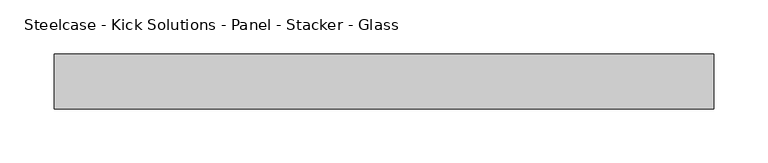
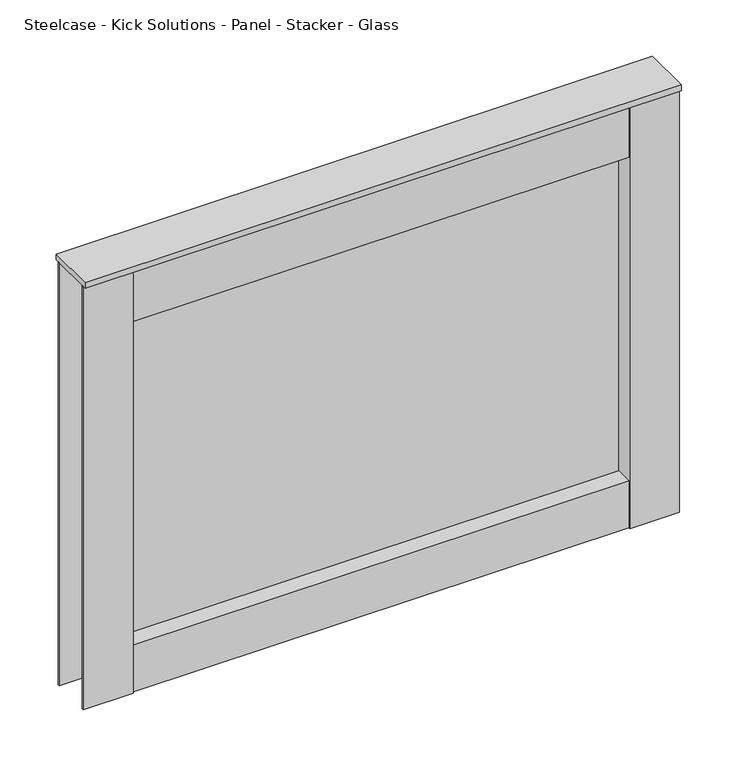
"""IFC4 building model written with IfcOpenShell, lengths in millimetres: furniture geometry, Steelcase - Kick Solutions - Panel - Stacker - Glass : 18H x 24W."""

import ifcopenshell
import ifcopenshell.guid

model = None  # the IFC model being written
_history = None  # IfcOwnerHistory: only IFC2X3 demands one
_inside = {}  # id of a spatial element -> (the spatial element, [elements in it])
_under = {}  # id of a project, library or spatial element -> (it, [spatial elements below it])
_declared = {}  # id of a project -> (the project, [libraries it declares])
_typed = {}  # id of a type object -> (the type object, [elements of that type])
_made_of = {}  # id of a material, layer set ... -> (it, [elements and type objects made of it])


def new_model(schema):
    """Start an empty IFC model of exactly this schema.

    Asked for "IFC4X3", IfcOpenShell would pick the latest addendum, in which some entities
    have other attributes; the version numbers below select the first issue.
    IFC2X3 requires an IfcOwnerHistory on every rooted entity: one is made here for all.
    """
    global model, _history
    if schema == "IFC4X3":
        model = ifcopenshell.file(schema_version=(4, 3, 0, 0))
    else:
        model = ifcopenshell.file(schema=schema)
    _inside.clear()
    _under.clear()
    _declared.clear()
    _typed.clear()
    _made_of.clear()
    _history = None
    if model.schema == "IFC2X3":
        org = make("IfcOrganization", Name="unknown")
        user = make(
            "IfcPersonAndOrganization",
            ThePerson=make("IfcPerson", FamilyName="unknown"),
            TheOrganization=org,
        )
        app = make(
            "IfcApplication",
            ApplicationDeveloper=org,
            Version="unknown",
            ApplicationFullName="unknown",
            ApplicationIdentifier="unknown",
        )
        _history = make(
            "IfcOwnerHistory",
            OwningUser=user,
            OwningApplication=app,
            ChangeAction="ADDED",
            CreationDate=0,
        )
    return model


def make(cls, **values):
    """One entity of the class cls with the attributes given. An attribute that is None is left unset."""
    return model.create_entity(
        cls, **{name: value for name, value in values.items() if value is not None}
    )


def rooted(cls, **values):
    """An entity with a GlobalId (a new one), such as an element, a storey or a relation."""
    return make(cls, GlobalId=ifcopenshell.guid.new(), OwnerHistory=_history, **values)


def si_unit(unit_type, name, prefix=None):
    """IfcSIUnit, for example si_unit("LENGTHUNIT", "METRE", prefix="MILLI")."""
    return make("IfcSIUnit", UnitType=unit_type, Prefix=prefix, Name=name)


def assignment(units):
    """IfcUnitAssignment: the units of a project."""
    return None if units is None else make("IfcUnitAssignment", Units=units)


def point(xyz):
    """IfcCartesianPoint."""
    return None if xyz is None else make("IfcCartesianPoint", Coordinates=xyz)


def direction(xyz):
    """IfcDirection."""
    return None if xyz is None else make("IfcDirection", DirectionRatios=xyz)


def frame(location, z_axis=None, x_axis=None):
    """IfcAxis2Placement3D, a coordinate frame: its origin and axes. An axis left out is left unset."""
    return make(
        "IfcAxis2Placement3D",
        Location=point(location),
        Axis=direction(z_axis),
        RefDirection=direction(x_axis),
    )


def origin():
    """The frame at (0, 0, 0) with its axes left unset."""
    return frame((0.0, 0.0, 0.0))


def place(relative_to, where):
    """IfcLocalPlacement: puts the frame where relative to a parent placement (None: the world)."""
    return make(
        "IfcLocalPlacement", PlacementRelTo=relative_to, RelativePlacement=where
    )


def context(
    kind, dimensions, precision=None, world=None, true_north=None, identifier=None
):
    """IfcGeometricRepresentationContext, for example the 3D "Model" context."""
    return make(
        "IfcGeometricRepresentationContext",
        ContextIdentifier=identifier,
        ContextType=kind,
        CoordinateSpaceDimension=dimensions,
        Precision=precision,
        WorldCoordinateSystem=world,
        TrueNorth=true_north,
    )


def project(units=None, contexts=None):
    """IfcProject with its units and contexts."""
    return rooted(
        "IfcProject",
        Name="project",
        RepresentationContexts=contexts,
        UnitsInContext=assignment(units),
    )


def spatial(cls, under=None, at=None, **own):
    """A site, building, storey or space (cls), placed at a placement, below another one or the project."""
    s = rooted(cls, ObjectPlacement=at, **own)
    if under is not None:
        _under.setdefault(under.id(), (under, []))[1].append(s)
    return s


def polyline(points):
    """IfcPolyline through the points."""
    return make("IfcPolyline", Points=[point(p) for p in points])


def outline(outer, holes=None, kind="AREA"):
    """IfcArbitraryClosedProfileDef: a profile drawn as a closed curve; with holes, ...WithVoids."""
    if holes is None:
        return make("IfcArbitraryClosedProfileDef", ProfileType=kind, OuterCurve=outer)
    return make(
        "IfcArbitraryProfileDefWithVoids",
        ProfileType=kind,
        OuterCurve=outer,
        InnerCurves=holes,
    )


def extrude(swept, where, along, depth):
    """IfcExtrudedAreaSolid: the profile swept, set in the frame where, extruded along a direction by depth."""
    return make(
        "IfcExtrudedAreaSolid",
        SweptArea=swept,
        Position=where,
        ExtrudedDirection=direction(along),
        Depth=depth,
    )


def shape(context_of_items, identifier, shape_type, items):
    """IfcShapeRepresentation: the items that make up one representation, for example the "Body"."""
    return make(
        "IfcShapeRepresentation",
        ContextOfItems=context_of_items,
        RepresentationIdentifier=identifier,
        RepresentationType=shape_type,
        Items=items,
    )


def source(mapping_origin, context_of_items, identifier, shape_type, items):
    """IfcRepresentationMap: a shape defined once, which mapped items show again and again."""
    return make(
        "IfcRepresentationMap",
        MappingOrigin=mapping_origin,
        MappedRepresentation=shape(context_of_items, identifier, shape_type, items),
    )


def transform(
    local_origin,
    x_axis=None,
    y_axis=None,
    z_axis=None,
    scale=None,
    scale2=None,
    scale3=None,
    uniform=True,
):
    """IfcCartesianTransformationOperator3D, or its non-uniform kind. x_axis, y_axis, z_axis: its Axis1, 2, 3."""
    if uniform:
        return make(
            "IfcCartesianTransformationOperator3D",
            Axis1=direction(x_axis),
            Axis2=direction(y_axis),
            LocalOrigin=point(local_origin),
            Scale=scale,
            Axis3=direction(z_axis),
        )
    return make(
        "IfcCartesianTransformationOperator3DnonUniform",
        Axis1=direction(x_axis),
        Axis2=direction(y_axis),
        LocalOrigin=point(local_origin),
        Scale=scale,
        Axis3=direction(z_axis),
        Scale2=scale2,
        Scale3=scale3,
    )


def mapped(mapping_source, mapping_target):
    """IfcMappedItem: shows the shape of a source again, moved by a transform."""
    return make(
        "IfcMappedItem", MappingSource=mapping_source, MappingTarget=mapping_target
    )


def made_of(thing, what):
    """Note that an element or type object is made of a material, layer set ...; save() writes the relation."""
    if what is not None:
        _made_of.setdefault(what.id(), (what, []))[1].append(thing)
    return thing


def element(
    cls,
    number,
    at=None,
    inside=None,
    cuts=None,
    type_object=None,
    material=None,
    context=None,
    identifier="Body",
    shape_type=None,
    held_by="IfcProductDefinitionShape",
    body=None,
    shapes=None,
    **own,
):
    """One element of the class cls, such as IfcWall. Its Tag is "e" and its number.

    at: its placement. inside: the storey or other place that contains it. cuts: it is an
    opening in that element (IfcRelVoidsElement). A single representation is given by context,
    identifier, shape_type and body (its items); several are given by shapes. held_by: the class
    of the entity that holds the representations. save() writes the other relations.
    """
    e = rooted(cls, Tag="e%d" % number, ObjectPlacement=at, **own)
    if body is not None:
        shapes = [shape(context, identifier, shape_type, body)]
    if shapes is not None:
        e.Representation = make(held_by, Representations=shapes)
    if inside is not None:
        _inside.setdefault(inside.id(), (inside, []))[1].append(e)
    if cuts is not None:
        rooted(
            "IfcRelVoidsElement", RelatingBuildingElement=cuts, RelatedOpeningElement=e
        )
    if type_object is not None:
        _typed.setdefault(type_object.id(), (type_object, []))[1].append(e)
    return made_of(e, material)


def aggregate(whole, parts):
    """IfcRelAggregates: a whole, such as a stair, and the parts it consists of."""
    return rooted("IfcRelAggregates", RelatingObject=whole, RelatedObjects=parts)


def save(model, path):
    """Write the relations noted so far, then the file.

    IfcRelAggregates (storeys below a building ...), IfcRelContainedInSpatialStructure (elements
    in a storey), IfcRelDefinesByType, IfcRelAssociatesMaterial and IfcRelDeclares: one each for
    every whole, place, type object, material and project.
    """
    for whole, parts in _under.values():
        aggregate(whole, parts)
    for where, things in _inside.values():
        rooted(
            "IfcRelContainedInSpatialStructure",
            RelatedElements=things,
            RelatingStructure=where,
        )
    for kind, things in _typed.values():
        rooted("IfcRelDefinesByType", RelatedObjects=things, RelatingType=kind)
    for what, things in _made_of.values():
        rooted("IfcRelAssociatesMaterial", RelatedObjects=things, RelatingMaterial=what)
    for by, libraries in _declared.values():
        rooted("IfcRelDeclares", RelatingContext=by, RelatedDefinitions=libraries)
    model.write(path)


def steelcase_kick_solutions_panel_stacker_glass_64768c59(model_context):
    return source(origin(), model_context, "Body", "SweptSolid", [
        extrude(outline(polyline([(558.8006661, -5.08), (558.8006661, -45.7200015), (50.8006646, -45.7200015), (50.8006646, -5.08), (558.8006661, -5.08)])), frame((0.0, 0.0, 1066.8), z_axis=(0.0, 0.0, 1.0), x_axis=(1.0, 0.0, 0.0)), (0.0, 0.0, 1.0), 50.6830951),
        extrude(outline(polyline([(558.8006661, -5.08), (558.8006661, -45.7200015), (50.8006646, -45.7200015), (50.8006646, -5.08), (558.8006661, -5.08)])), frame((0.0, 0.0, 1466.85), z_axis=(0.0, 0.0, 1.0), x_axis=(1.0, 0.0, 0.0)), (0.0, 0.0, 1.0), 57.15),
        extrude(outline(polyline([(50.8006646, -3.1743148), (50.8006646, -47.6243142), (0.0, -47.6243142), (0.0, -45.7200015), (47.7526646, -45.7200015), (47.7526646, -5.08), (0.0, -5.08), (0.0, -3.1743148), (50.8006646, -3.1743148)])), frame((0.0, 0.0, 1066.8), z_axis=(0.0, 0.0, 1.0), x_axis=(1.0, 0.0, 0.0)), (0.0, 0.0, 1.0), 457.2),
        extrude(outline(polyline([(558.8006661, -3.1743148), (609.6, -3.1743148), (609.6, -5.08), (561.8486661, -5.08), (561.8486661, -45.7200015), (609.6, -45.7200015), (609.6, -47.6243142), (558.8006661, -47.6243142), (558.8006661, -3.1743148)])), frame((0.0, 0.0, 1066.8), z_axis=(0.0, 0.0, 1.0), x_axis=(1.0, 0.0, 0.0)), (0.0, 0.0, 1.0), 457.2),
        extrude(outline(polyline([(558.8006661, -28.422537), (50.8006646, -28.422537), (50.8006646, -25.4), (558.8006661, -25.4), (558.8006661, -28.422537)])), frame((0.0, 0.0, 1117.4830951), z_axis=(0.0, 0.0, 1.0), x_axis=(1.0, 0.0, 0.0)), (0.0, 0.0, 1.0), 349.3669049),
        extrude(outline(polyline([(609.6, 0.0), (609.6, -50.8000015), (0.0, -50.8000015), (0.0, 0.0), (609.6, 0.0)])), frame((0.0, 0.0, 1524.0), z_axis=(0.0, 0.0, 1.0), x_axis=(1.0, 0.0, 0.0)), (0.0, 0.0, 1.0), 6.35),
    ])


if __name__ == "__main__":
    model = new_model("IFC4")
    model_context = context("Model", 3, world=origin())
    ifc_project = project(units=[si_unit("LENGTHUNIT", "METRE", prefix="MILLI")], contexts=[model_context])
    site = spatial("IfcSite", under=ifc_project)
    building = spatial("IfcBuilding", under=site)
    placement = place(None, origin())
    steelcase_kick_solutions_panel_stacker_glass_shape = steelcase_kick_solutions_panel_stacker_glass_64768c59(model_context)
    element("IfcFurniture", 1, ObjectType="Steelcase - Kick Solutions - Panel - Stacker - Glass : 18H x 24W", at=placement, inside=building, context=model_context, shape_type="MappedRepresentation", body=[
        mapped(steelcase_kick_solutions_panel_stacker_glass_shape, transform((0.0, 0.0, 0.0), x_axis=(1.0, 0.0, 0.0), y_axis=(0.0, 1.0, 0.0), z_axis=(0.0, 0.0, 1.0))),
    ])
    save(model, "model.ifc")
